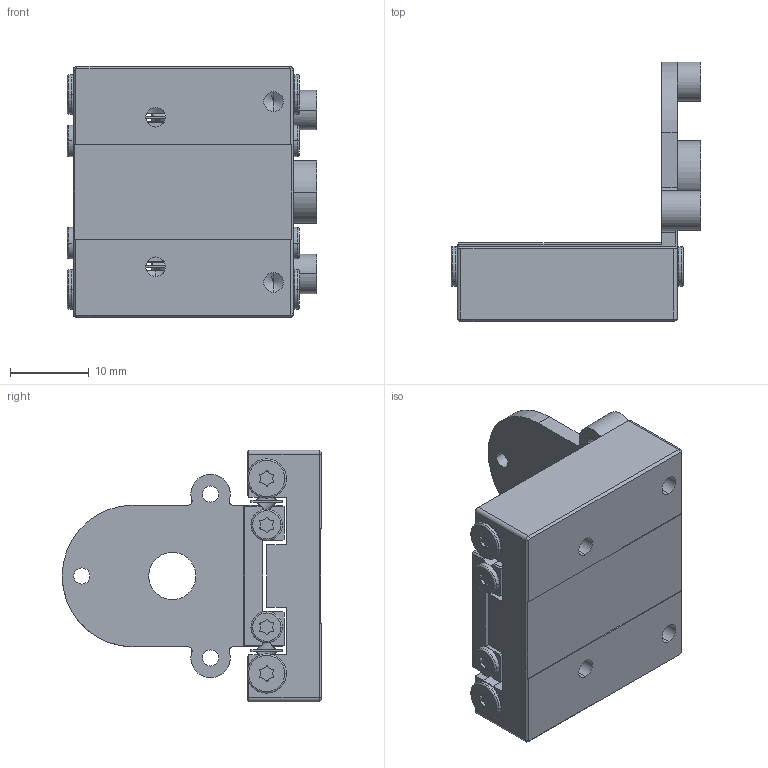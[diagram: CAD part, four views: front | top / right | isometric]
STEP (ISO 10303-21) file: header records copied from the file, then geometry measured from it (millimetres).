
FILE_DESCRIPTION (( 'STEP AP214' ), '1' );
FILE_NAME ('瑤毞揤萇鎮湛-2.STEP', '2024-02-23T06:09:06', ( 'Sky123.Org' ), ( 'Sky123.Org' ), 'SwSTEP 2.0', 'SolidWorks 2016', '' );
FILE_SCHEMA (( 'AUTOMOTIVE_DESIGN' ));
Length unit declared in the file: millimetre
Products named in the file (1): 瑤毞揤萇鎮湛-2
Bounding box: 31.75 x 33 x 32 mm (x, y, z)
Volume: 9143.2 mm3; surface area: 7511.8 mm2
Topology: 26 solids, 26 shells, 502 faces, 1218 edges, 773 vertices
Faces by surface type: cylinder 231, plane 204, cone 43, torus 24
Entity records: 20531 total; most frequent: DIRECTION 2736, CARTESIAN_POINT 2513, ORIENTED_EDGE 2396, EDGE_CURVE 1198, AXIS2_PLACEMENT_3D 1042, VERTEX_POINT 773, LINE 652, VECTOR 652
